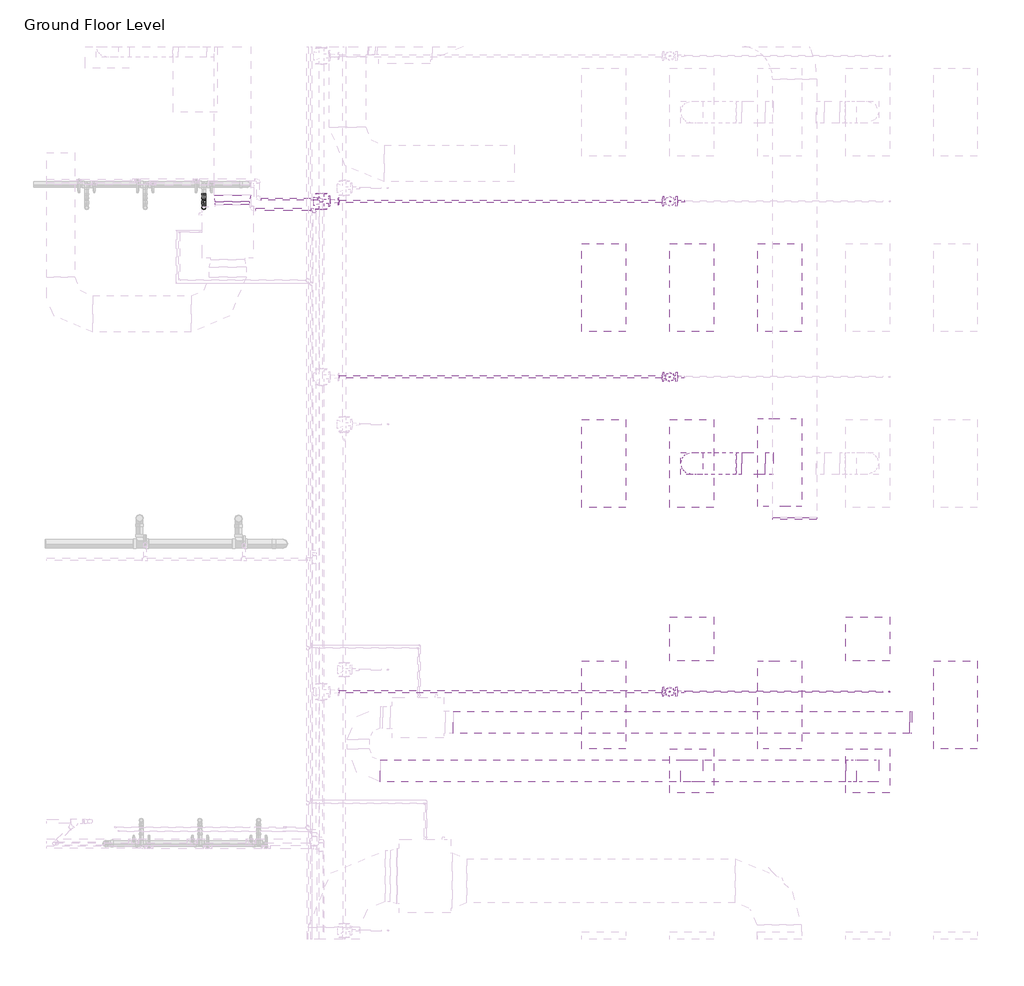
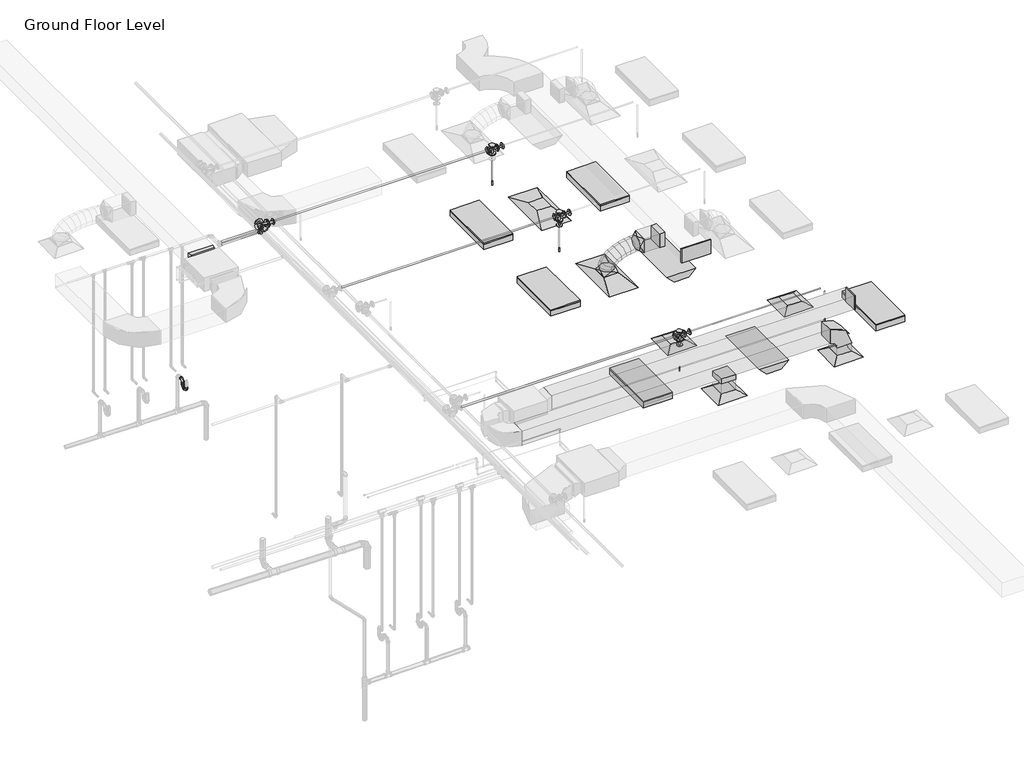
# One storey, part 22 of 74: 15 pipe fittings, 12 pipe segments, 8 duct fittings, 7 duct segments, 7 light fixtures, 6 air terminals, 4 fire suppression terminals.
"""IFC4 building model written with IfcOpenShell, lengths in millimetres."""

from ifc_helpers import new_model, si_unit, point, frame, frame_2d, origin, place, context, project, spatial, polyline, circle_curve, ellipse_curve, trimmed, segment, composite_curve, outline, extrude, transform, mapped, element, save
from ifc_brep_helpers import plane_surface, cylinder_surface, advanced_brep
from components import m_return_diffuser_1200x600_1200_x_600_face_300_x_300_d1983ef6, m_return_diffuser_600_x_600_face_300_x_300_connection_ff221211, m_rectangular_elbow_radius_1_w_618da153, m_rectangular_endcap_standard_0f0ff112, m_rectangular_endcap_standard_c319d4e7, m_rectangular_takeoff_standard_2be5eba1, m_rectangular_transition_angle_45_degree_c3bd3b2c, m_rectangular_to_round_transition_angle_45_degree_641efff0, m_sprinkler_dry_pendent_hosted_15_mm_dry_pendent_9bda8e11, m_emergency_recessed_lighting_fixture_600x1200_277_5b10b25d, m_troffer_light_parabolic_rectangular1_0600x1200mm_4_lamp_86473d4a, m_bend_pvc_sch_40_dwv_standard_1e7bdcc1, m_bend_pvc_sch_40_dwv_standard_776e50c4, m_reducer_flanged_cs_class_150_standard_ccf252ad, m_reducer_flanged_cs_class_150_standard_a7631c35, m_tee_round_base_flanged_cs_class_150_standard_dd767e04, m_tee_round_base_flanged_cs_class_150_standard_7e5987a1, standard_517a5a8d

model = new_model("IFC4")

# Units and contexts
model_context = context("Model", 3, world=origin())
ifc_project = project(units=[si_unit("LENGTHUNIT", "METRE", prefix="MILLI")], contexts=[model_context])

# Site, building, storey
site = spatial("IfcSite", under=ifc_project)
building = spatial("IfcBuilding", under=site)
storey = spatial("IfcBuildingStorey", under=building, Name="Ground Floor Level", Elevation=900.0)

# Air terminals
placement = place(None, origin())
m_return_diffuser_1200x600_1200_x_600_face_300_x_300_shape = m_return_diffuser_1200x600_1200_x_600_face_300_x_300_d1983ef6(model_context)
element("IfcAirTerminal", 1, ObjectType="M_Return Diffuser 1200x600 : 1200 x 600 Face 300 x 300 Connection", at=placement, inside=storey, context=model_context, shape_type="MappedRepresentation", body=[
    mapped(m_return_diffuser_1200x600_1200_x_600_face_300_x_300_shape, transform((10743.0482736, -25264.7846466, 3650.0), x_axis=(0.0, 1.0, 0.0), y_axis=(-1.0, 0.0, 0.0), z_axis=(0.0, 0.0, 1.0))),
])
m_return_diffuser_600_x_600_face_300_x_300_connection_shape = m_return_diffuser_600_x_600_face_300_x_300_connection_ff221211(model_context)
element("IfcAirTerminal", 2, ObjectType="M_Return Diffuser : 600 x 600 Face 300 x 300 Connection", at=placement, inside=storey, context=model_context, shape_type="MappedRepresentation", body=[
    mapped(m_return_diffuser_600_x_600_face_300_x_300_connection_shape, transform((10743.0482736, -31864.7846466, 3650.0), x_axis=(1.0, 0.0, 0.0), y_axis=(0.0, 1.0, 0.0), z_axis=(0.0, 0.0, 1.0))),
])
element("IfcAirTerminal", 3, ObjectType="M_Return Diffuser : 600 x 600 Face 300 x 300 Connection", at=placement, inside=storey, context=model_context, shape_type="MappedRepresentation", body=[
    mapped(m_return_diffuser_600_x_600_face_300_x_300_connection_shape, transform((13143.0482736, -31864.7846466, 3650.0), x_axis=(1.0, 0.0, 0.0), y_axis=(0.0, 1.0, 0.0), z_axis=(0.0, 0.0, 1.0))),
])
element("IfcAirTerminal", 4, ObjectType="M_Supply Diffuser 1200x600 : 1200 x 600 Face 300 x 300 Connection", at=placement, inside=storey, context=model_context, shape_type="MappedRepresentation", body=[
    mapped(m_return_diffuser_1200x600_1200_x_600_face_300_x_300_shape, transform((10743.0482736, -27664.7846466, 3650.0), x_axis=(0.0, 1.0, 0.0), y_axis=(-1.0, 0.0, 0.0), z_axis=(0.0, 0.0, 1.0))),
])
element("IfcAirTerminal", 5, ObjectType="M_Supply Diffuser : 600 x 600 Face 300 x 300 Connection", at=placement, inside=storey, context=model_context, shape_type="MappedRepresentation", body=[
    mapped(m_return_diffuser_600_x_600_face_300_x_300_connection_shape, transform((10743.0482736, -30064.7846466, 3650.0), x_axis=(1.0, 0.0, 0.0), y_axis=(0.0, 1.0, 0.0), z_axis=(0.0, 0.0, 1.0))),
])
element("IfcAirTerminal", 6, ObjectType="M_Supply Diffuser : 600 x 600 Face 300 x 300 Connection", at=placement, inside=storey, context=model_context, shape_type="MappedRepresentation", body=[
    mapped(m_return_diffuser_600_x_600_face_300_x_300_connection_shape, transform((13143.0482736, -30064.7846466, 3650.0), x_axis=(1.0, 0.0, 0.0), y_axis=(0.0, 1.0, 0.0), z_axis=(0.0, 0.0, 1.0))),
])

# Duct fittings
m_rectangular_elbow_radius_1_w_shape = m_rectangular_elbow_radius_1_w_618da153(model_context)
element("IfcDuctFitting", 7, ObjectType="M_Rectangular Elbow - Radius : 1 W", at=placement, inside=storey, context=model_context, shape_type="MappedRepresentation", body=[
    mapped(m_rectangular_elbow_radius_1_w_shape, transform((13143.0482736, -31864.7846466, 4221.2), x_axis=(0.0, 0.0, 1.0), y_axis=(-1.0, 0.0, 0.0), z_axis=(0.0, -1.0, 0.0))),
])
m_rectangular_endcap_standard_shape = m_rectangular_endcap_standard_0f0ff112(model_context)
element("IfcDuctFitting", 8, ObjectType="M_Rectangular Endcap : Standard", at=placement, inside=storey, context=model_context, shape_type="MappedRepresentation", body=[
    mapped(m_rectangular_endcap_standard_shape, transform((12147.7826463, -28403.2846466, 4150.0002153), x_axis=(0.0, -1.0, 0.0), y_axis=(1.0, 0.0, 0.0), z_axis=(0.0, 0.0, 1.0))),
])
m_rectangular_endcap_standard_2_shape = m_rectangular_endcap_standard_c319d4e7(model_context)
element("IfcDuctFitting", 9, ObjectType="M_Rectangular Endcap : Standard", at=placement, inside=storey, context=model_context, shape_type="MappedRepresentation", body=[
    mapped(m_rectangular_endcap_standard_2_shape, transform((13719.2644074, -31200.1877703, 4245.9), x_axis=(0.9999999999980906, 0.0, -1.954187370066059e-06), y_axis=(0.0, 1.0000000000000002, 0.0), z_axis=(1.954187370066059e-06, 0.0, 0.9999999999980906))),
])
m_rectangular_takeoff_standard_shape = m_rectangular_takeoff_standard_2be5eba1(model_context)
element("IfcDuctFitting", 10, ObjectType="M_Rectangular Takeoff : Standard", at=placement, inside=storey, context=model_context, shape_type="MappedRepresentation", body=[
    mapped(m_rectangular_takeoff_standard_shape, transform((11847.7826463, -27664.7846466, 4150.0), x_axis=(-1.0, 0.0, 0.0), y_axis=(0.0, 1.0, 0.0), z_axis=(0.0, 0.0, -1.0))),
])
element("IfcDuctFitting", 11, ObjectType="M_Rectangular Takeoff : Standard", at=placement, inside=storey, context=model_context, shape_type="MappedRepresentation", body=[
    mapped(m_rectangular_takeoff_standard_shape, transform((10743.0482736, -31864.7846466, 4071.2), x_axis=(0.0, 0.0, -1.0), y_axis=(-1.0, 0.0, 0.0), z_axis=(0.0, 1.0, 0.0))),
])
m_rectangular_transition_angle_45_degree_shape = m_rectangular_transition_angle_45_degree_c3bd3b2c(model_context)
element("IfcDuctFitting", 12, ObjectType="M_Rectangular Transition - Angle : 45 Degree", at=placement, inside=storey, context=model_context, shape_type="MappedRepresentation", body=[
    mapped(m_rectangular_transition_angle_45_degree_shape, transform((4469.1581832, -24003.4668801, 4057.1548873), x_axis=(0.0, -0.9999999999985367, 1.7107374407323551e-06), y_axis=(1.0, 0.0, 0.0), z_axis=(0.0, 1.7107374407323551e-06, 0.9999999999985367))),
])
m_rectangular_to_round_transition_angle_45_degree_shape = m_rectangular_to_round_transition_angle_45_degree_641efff0(model_context)
element("IfcDuctFitting", 13, ObjectType="M_Rectangular to Round Transition - Angle : 45 Degree", at=placement, inside=storey, context=model_context, shape_type="MappedRepresentation", body=[
    mapped(m_rectangular_to_round_transition_angle_45_degree_shape, transform((10743.0482736, -27664.7846466, 3751.6), x_axis=(0.0, 0.0, 1.0), y_axis=(-1.0, 0.0, 0.0), z_axis=(0.0, -1.0, 0.0))),
])
element("IfcDuctFitting", 14, ObjectType="M_Rectangular to Round Transition - Angle : 45 Degree", at=placement, inside=storey, context=model_context, shape_type="MappedRepresentation", body=[
    mapped(m_rectangular_to_round_transition_angle_45_degree_shape, transform((11424.4842049, -27664.7846466, 4150.0), x_axis=(-1.0, 0.0, 0.0), y_axis=(0.0, -1.0, 0.0), z_axis=(0.0, 0.0, 1.0))),
])

# Duct segments
element("IfcDuctSegment", 15, ObjectType="Flex - Round", at=placement, inside=storey, context=model_context, shape_type="AdvancedBrep", body=[
    advanced_brep(
    [(10893.0482736, -27664.7846466, 3826.6), (10743.0482736, -27814.7846466, 3826.6), (10593.0482736, -27664.7846466, 3826.6), (10743.0482736, -27514.7846466, 3826.6), (10893.0482736, -27664.7846466, 3832.4838104), (10743.0482736, -27814.7846466, 3857.3049615), (10593.0482736, -27664.7846466, 3882.1261126), (10743.0482736, -27514.7846466, 3857.3049615), (10895.1777586, -27664.7846466, 3838.7421096), (10759.7096782, -27814.7846466, 3906.2708192), (10624.2415979, -27664.7846466, 3973.7995287), (10759.7096782, -27514.7846466, 3906.2708192), (10917.1997864, -27664.7846466, 3871.1472855), (10805.5876959, -27814.7846466, 3973.7798261), (10693.9756053, -27664.7846466, 4076.4123668), (10805.5876959, -27514.7846466, 3973.7798261), (10957.142511, -27664.7846466, 3903.4915826), (10874.5230324, -27814.7846466, 4029.6013814), (10791.9035539, -27664.7846466, 4155.7111802), (10874.5230324, -27514.7846466, 4029.6013814), (11020.0646936, -27664.7846466, 3936.1928758), (10960.3563938, -27814.7846466, 4074.2098454), (10900.6480941, -27664.7846466, 4212.226815), (10960.3563938, -27514.7846466, 4074.2098454), (11098.9170855, -27664.7846466, 3963.8479616), (11056.9284859, -27814.7846466, 4108.0795788), (11014.9398863, -27664.7846466, 4252.311196), (11056.9284859, -27514.7846466, 4108.0795788), (11185.4890682, -27664.7846466, 3984.0509494), (11158.0800145, -27814.7846466, 4131.684942), (11130.6709609, -27664.7846466, 4279.3189347), (11158.0800145, -27514.7846466, 4131.684942), (11271.9732516, -27664.7846466, 3996.0504424), (11257.6516856, -27814.7846466, 4145.5002956), (11243.3301196, -27664.7846466, 4294.9501488), (11257.6516856, -27514.7846466, 4145.5002956), (11346.1345531, -27664.7846466, 4000.0), (11342.1431577, -27814.7846466, 4150.0), (11338.1517622, -27664.7846466, 4300.0), (11342.1431577, -27514.7846466, 4150.0), (11349.4842049, -27664.7846466, 4000.0), (11349.4842049, -27514.7846466, 4150.0), (11349.4842049, -27664.7846466, 4300.0), (11349.4842049, -27814.7846466, 4150.0)],
    [
        (0, 1, circle_curve(frame((10743.0482736, -27664.7846466, 3826.6), z_axis=(0.0, 0.0, -1.0), x_axis=(1.0, 0.0, 0.0)), 150.0)),
        (1, 2, circle_curve(frame((10743.0482736, -27664.7846466, 3826.6), z_axis=(0.0, 0.0, -1.0), x_axis=(1.0, 0.0, 0.0)), 150.0)),
        (2, 3, circle_curve(frame((10743.0482736, -27664.7846466, 3826.6), z_axis=(0.0, 0.0, -1.0), x_axis=(1.0, 0.0, 0.0)), 150.0)),
        (3, 0, circle_curve(frame((10743.0482736, -27664.7846466, 3826.6), z_axis=(0.0, 0.0, -1.0), x_axis=(1.0, 0.0, 0.0)), 150.0)),
        (0, 4),
        (4, 5, ellipse_curve(frame((10743.0482736, -27664.7846466, 3857.3049615), z_axis=(-0.1632543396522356, 0.0, -0.9865840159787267), x_axis=(0.9865840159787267, 0.0, -0.16325433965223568)), 152.039763, 150.0)),
        (5, 1),
        (5, 6, ellipse_curve(frame((10743.0482736, -27664.7846466, 3857.3049615), z_axis=(-0.1632543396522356, 0.0, -0.9865840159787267), x_axis=(0.9865840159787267, 0.0, -0.16325433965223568)), 152.039763, 150.0)),
        (6, 2),
        (6, 7, ellipse_curve(frame((10743.0482736, -27664.7846466, 3857.3049615), z_axis=(-0.1632543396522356, 0.0, -0.9865840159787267), x_axis=(0.9865840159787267, 0.0, -0.16325433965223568)), 152.039763, 150.0)),
        (7, 3),
        (7, 4, ellipse_curve(frame((10743.0482736, -27664.7846466, 3857.3049615), z_axis=(-0.1632543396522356, 0.0, -0.9865840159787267), x_axis=(0.9865840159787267, 0.0, -0.16325433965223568)), 152.039763, 150.0)),
        (4, 8),
        (8, 9, ellipse_curve(frame((10759.7096782, -27664.7846466, 3906.2708192), z_axis=(-0.4461280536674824, 0.0, -0.8949691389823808), x_axis=(0.8949691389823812, 0.0, -0.44612805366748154)), 151.366203, 150.0)),
        (9, 5),
        (9, 10, ellipse_curve(frame((10759.7096782, -27664.7846466, 3906.2708192), z_axis=(-0.4461280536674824, 0.0, -0.8949691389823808), x_axis=(0.8949691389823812, 0.0, -0.44612805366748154)), 151.366203, 150.0)),
        (10, 6),
        (10, 11, ellipse_curve(frame((10759.7096782, -27664.7846466, 3906.2708192), z_axis=(-0.4461280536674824, 0.0, -0.8949691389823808), x_axis=(0.8949691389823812, 0.0, -0.44612805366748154)), 151.366203, 150.0)),
        (11, 7),
        (11, 8, ellipse_curve(frame((10759.7096782, -27664.7846466, 3906.2708192), z_axis=(-0.4461280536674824, 0.0, -0.8949691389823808), x_axis=(0.8949691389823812, 0.0, -0.44612805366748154)), 151.366203, 150.0)),
        (8, 12),
        (12, 13, ellipse_curve(frame((10805.5876959, -27664.7846466, 3973.7798261), z_axis=(-0.6768758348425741, 0.0, -0.7360972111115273), x_axis=(0.7360972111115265, 0.0, -0.6768758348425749)), 151.6268352, 150.0)),
        (13, 9),
        (13, 14, ellipse_curve(frame((10805.5876959, -27664.7846466, 3973.7798261), z_axis=(-0.6768758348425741, 0.0, -0.7360972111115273), x_axis=(0.7360972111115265, 0.0, -0.6768758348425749)), 151.6268352, 150.0)),
        (14, 10),
        (14, 15, ellipse_curve(frame((10805.5876959, -27664.7846466, 3973.7798261), z_axis=(-0.6768758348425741, 0.0, -0.7360972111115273), x_axis=(0.7360972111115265, 0.0, -0.6768758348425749)), 151.6268352, 150.0)),
        (15, 11),
        (15, 12, ellipse_curve(frame((10805.5876959, -27664.7846466, 3973.7798261), z_axis=(-0.6768758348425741, 0.0, -0.7360972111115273), x_axis=(0.7360972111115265, 0.0, -0.6768758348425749)), 151.6268352, 150.0)),
        (12, 16),
        (16, 17, ellipse_curve(frame((10874.5230324, -27664.7846466, 4029.6013814), z_axis=(-0.8364738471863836, 0.0, -0.5480068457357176), x_axis=(0.5480068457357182, 0.0, -0.8364738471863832)), 150.7635884, 150.0)),
        (17, 13),
        (17, 18, ellipse_curve(frame((10874.5230324, -27664.7846466, 4029.6013814), z_axis=(-0.8364738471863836, 0.0, -0.5480068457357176), x_axis=(0.5480068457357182, 0.0, -0.8364738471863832)), 150.7635884, 150.0)),
        (18, 14),
        (18, 19, ellipse_curve(frame((10874.5230324, -27664.7846466, 4029.6013814), z_axis=(-0.8364738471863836, 0.0, -0.5480068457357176), x_axis=(0.5480068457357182, 0.0, -0.8364738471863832)), 150.7635884, 150.0)),
        (19, 15),
        (19, 16, ellipse_curve(frame((10874.5230324, -27664.7846466, 4029.6013814), z_axis=(-0.8364738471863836, 0.0, -0.5480068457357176), x_axis=(0.5480068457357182, 0.0, -0.8364738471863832)), 150.7635884, 150.0)),
        (16, 20),
        (20, 21, ellipse_curve(frame((10960.3563938, -27664.7846466, 4074.2098454), z_axis=(-0.9177957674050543, 0.0, -0.3970528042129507), x_axis=(0.3970528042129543, 0.0, -0.9177957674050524)), 150.3787384, 150.0)),
        (21, 17),
        (21, 22, ellipse_curve(frame((10960.3563938, -27664.7846466, 4074.2098454), z_axis=(-0.9177957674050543, 0.0, -0.3970528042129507), x_axis=(0.3970528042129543, 0.0, -0.9177957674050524)), 150.3787384, 150.0)),
        (22, 18),
        (22, 23, ellipse_curve(frame((10960.3563938, -27664.7846466, 4074.2098454), z_axis=(-0.9177957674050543, 0.0, -0.3970528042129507), x_axis=(0.3970528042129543, 0.0, -0.9177957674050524)), 150.3787384, 150.0)),
        (23, 19),
        (23, 20, ellipse_curve(frame((10960.3563938, -27664.7846466, 4074.2098454), z_axis=(-0.9177957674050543, 0.0, -0.3970528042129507), x_axis=(0.3970528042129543, 0.0, -0.9177957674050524)), 150.3787384, 150.0)),
        (20, 24),
        (24, 25, ellipse_curve(frame((11056.9284859, -27664.7846466, 4108.0795788), z_axis=(-0.9601411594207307, 0.0, -0.27951557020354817), x_axis=(0.2795155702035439, 0.0, -0.9601411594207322)), 150.2191795, 150.0)),
        (25, 21),
        (25, 26, ellipse_curve(frame((11056.9284859, -27664.7846466, 4108.0795788), z_axis=(-0.9601411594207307, 0.0, -0.27951557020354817), x_axis=(0.2795155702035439, 0.0, -0.9601411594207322)), 150.2191795, 150.0)),
        (26, 22),
        (26, 27, ellipse_curve(frame((11056.9284859, -27664.7846466, 4108.0795788), z_axis=(-0.9601411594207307, 0.0, -0.27951557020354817), x_axis=(0.2795155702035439, 0.0, -0.9601411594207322)), 150.2191795, 150.0)),
        (27, 23),
        (27, 24, ellipse_curve(frame((11056.9284859, -27664.7846466, 4108.0795788), z_axis=(-0.9601411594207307, 0.0, -0.27951557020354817), x_axis=(0.2795155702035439, 0.0, -0.9601411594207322)), 150.2191795, 150.0)),
        (24, 28),
        (28, 29, ellipse_curve(frame((11158.0800145, -27664.7846466, 4131.684942), z_axis=(-0.9831991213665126, 0.0, -0.1825362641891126), x_axis=(0.18253626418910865, 0.0, -0.9831991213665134)), 150.1567581, 150.0)),
        (29, 25),
        (29, 30, ellipse_curve(frame((11158.0800145, -27664.7846466, 4131.684942), z_axis=(-0.9831991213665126, 0.0, -0.1825362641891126), x_axis=(0.18253626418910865, 0.0, -0.9831991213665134)), 150.1567581, 150.0)),
        (30, 26),
        (30, 31, ellipse_curve(frame((11158.0800145, -27664.7846466, 4131.684942), z_axis=(-0.9831991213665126, 0.0, -0.1825362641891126), x_axis=(0.18253626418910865, 0.0, -0.9831991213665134)), 150.1567581, 150.0)),
        (31, 27),
        (31, 28, ellipse_curve(frame((11158.0800145, -27664.7846466, 4131.684942), z_axis=(-0.9831991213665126, 0.0, -0.1825362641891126), x_axis=(0.18253626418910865, 0.0, -0.9831991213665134)), 150.1567581, 150.0)),
        (28, 32),
        (32, 33, ellipse_curve(frame((11257.6516856, -27664.7846466, 4145.5002956), z_axis=(-0.9954398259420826, 0.0, -0.09539157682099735), x_axis=(0.09539157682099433, 0.0, -0.9954398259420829)), 150.1344926, 150.0)),
        (33, 29),
        (33, 34, ellipse_curve(frame((11257.6516856, -27664.7846466, 4145.5002956), z_axis=(-0.9954398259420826, 0.0, -0.09539157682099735), x_axis=(0.09539157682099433, 0.0, -0.9954398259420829)), 150.1344926, 150.0)),
        (34, 30),
        (34, 35, ellipse_curve(frame((11257.6516856, -27664.7846466, 4145.5002956), z_axis=(-0.9954398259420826, 0.0, -0.09539157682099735), x_axis=(0.09539157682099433, 0.0, -0.9954398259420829)), 150.1344926, 150.0)),
        (35, 31),
        (35, 32, ellipse_curve(frame((11257.6516856, -27664.7846466, 4145.5002956), z_axis=(-0.9954398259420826, 0.0, -0.09539157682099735), x_axis=(0.09539157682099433, 0.0, -0.9954398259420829)), 150.1344926, 150.0)),
        (32, 36),
        (36, 37, ellipse_curve(frame((11342.1431577, -27664.7846466, 4150.0), z_axis=(-0.9996461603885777, 0.0, -0.02659988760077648), x_axis=(0.026599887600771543, 0.0, -0.9996461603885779)), 150.0530947, 150.0)),
        (37, 33),
        (37, 38, ellipse_curve(frame((11342.1431577, -27664.7846466, 4150.0), z_axis=(-0.9996461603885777, 0.0, -0.02659988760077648), x_axis=(0.026599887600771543, 0.0, -0.9996461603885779)), 150.0530947, 150.0)),
        (38, 34),
        (38, 39, ellipse_curve(frame((11342.1431577, -27664.7846466, 4150.0), z_axis=(-0.9996461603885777, 0.0, -0.02659988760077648), x_axis=(0.026599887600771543, 0.0, -0.9996461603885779)), 150.0530947, 150.0)),
        (39, 35),
        (39, 36, ellipse_curve(frame((11342.1431577, -27664.7846466, 4150.0), z_axis=(-0.9996461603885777, 0.0, -0.02659988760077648), x_axis=(0.026599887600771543, 0.0, -0.9996461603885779)), 150.0530947, 150.0)),
        (40, 41, circle_curve(frame((11349.4842049, -27664.7846466, 4150.0), z_axis=(1.0, 0.0, 0.0), x_axis=(0.0, 0.0, -1.0)), 150.0)),
        (41, 42, circle_curve(frame((11349.4842049, -27664.7846466, 4150.0), z_axis=(1.0, 0.0, 0.0), x_axis=(0.0, 0.0, -1.0)), 150.0)),
        (42, 43, circle_curve(frame((11349.4842049, -27664.7846466, 4150.0), z_axis=(1.0, 0.0, 0.0), x_axis=(0.0, 0.0, -1.0)), 150.0)),
        (43, 40, circle_curve(frame((11349.4842049, -27664.7846466, 4150.0), z_axis=(1.0, 0.0, 0.0), x_axis=(0.0, 0.0, -1.0)), 150.0)),
        (36, 40),
        (43, 37),
        (42, 38),
        (41, 39),
    ],
    [
        plane_surface(frame((10743.0482736, -27814.7846466, 3826.6), z_axis=(0.0, 0.0, -1.0), x_axis=(1.0, 0.0, 0.0))),
        cylinder_surface(frame((10743.0482736, -27664.7846466, 3826.6), z_axis=(0.0, 0.0, -1.0), x_axis=(1.0, 0.0, 0.0)), 150.0),
        cylinder_surface(frame((10743.0482736, -27664.7846466, 3857.3049615), z_axis=(-0.32212824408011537, 0.0, -0.946696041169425), x_axis=(0.946696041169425, 0.0, -0.32212824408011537)), 150.0),
        cylinder_surface(frame((10759.7096782, -27664.7846466, 3906.2708192), z_axis=(-0.5620745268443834, 0.0, -0.827086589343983), x_axis=(0.827086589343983, 0.0, -0.5620745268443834)), 150.0),
        cylinder_surface(frame((10805.5876959, -27664.7846466, 3973.7798261), z_axis=(-0.7771524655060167, 0.0, -0.6293123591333), x_axis=(0.6293123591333, 0.0, -0.7771524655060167)), 150.0),
        cylinder_surface(frame((10874.5230324, -27664.7846466, 4029.6013814), z_axis=(-0.8873220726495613, 0.0, -0.4611502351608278), x_axis=(0.4611502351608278, 0.0, -0.8873220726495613)), 150.0),
        cylinder_surface(frame((10960.3563938, -27664.7846466, 4074.2098454), z_axis=(-0.9436464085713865, 0.0, -0.33095536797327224), x_axis=(0.33095536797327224, 0.0, -0.9436464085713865)), 150.0),
        cylinder_surface(frame((11056.9284859, -27664.7846466, 4108.0795788), z_axis=(-0.9738340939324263, 0.0, -0.22726010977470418), x_axis=(0.22726010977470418, 0.0, -0.9738340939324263)), 150.0),
        cylinder_surface(frame((11158.0800145, -27664.7846466, 4131.684942), z_axis=(-0.9905113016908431, 0.0, -0.13743129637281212), x_axis=(0.13743129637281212, 0.0, -0.9905113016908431)), 150.0),
        cylinder_surface(frame((11257.6516856, -27664.7846466, 4145.5002956), z_axis=(-0.9985848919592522, 0.0, -0.05318095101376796), x_axis=(0.05318095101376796, 0.0, -0.9985848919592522)), 150.0),
        plane_surface(frame((11349.4842049, -27664.7846466, 4000.0), z_axis=(1.0, 0.0, 0.0), x_axis=(0.0, 1.0, 0.0))),
        cylinder_surface(frame((11342.1431577, -27664.7846466, 4150.0), z_axis=(-1.0, 0.0, 0.0), x_axis=(0.0, 0.0, -1.0)), 150.0),
    ],
    [
        (0, [[1, 2, 3, 4]]),
        (1, [[-1, 5, 6, 7]]),
        (1, [[-2, -7, 8, 9]]),
        (1, [[-3, -9, 10, 11]]),
        (1, [[-4, -11, 12, -5]]),
        (2, [[-6, 13, 14, 15]]),
        (2, [[-8, -15, 16, 17]]),
        (2, [[-10, -17, 18, 19]]),
        (2, [[-12, -19, 20, -13]]),
        (3, [[-14, 21, 22, 23]]),
        (3, [[-16, -23, 24, 25]]),
        (3, [[-18, -25, 26, 27]]),
        (3, [[-20, -27, 28, -21]]),
        (4, [[-22, 29, 30, 31]]),
        (4, [[-24, -31, 32, 33]]),
        (4, [[-26, -33, 34, 35]]),
        (4, [[-28, -35, 36, -29]]),
        (5, [[-30, 37, 38, 39]]),
        (5, [[-32, -39, 40, 41]]),
        (5, [[-34, -41, 42, 43]]),
        (5, [[-36, -43, 44, -37]]),
        (6, [[-38, 45, 46, 47]]),
        (6, [[-40, -47, 48, 49]]),
        (6, [[-42, -49, 50, 51]]),
        (6, [[-44, -51, 52, -45]]),
        (7, [[-46, 53, 54, 55]]),
        (7, [[-48, -55, 56, 57]]),
        (7, [[-50, -57, 58, 59]]),
        (7, [[-52, -59, 60, -53]]),
        (8, [[-54, 61, 62, 63]]),
        (8, [[-56, -63, 64, 65]]),
        (8, [[-58, -65, 66, 67]]),
        (8, [[-60, -67, 68, -61]]),
        (9, [[-62, 69, 70, 71]]),
        (9, [[-64, -71, 72, 73]]),
        (9, [[-66, -73, 74, 75]]),
        (9, [[-68, -75, 76, -69]]),
        (10, [[77, 78, 79, 80]]),
        (11, [[-70, 81, -80, 82]]),
        (11, [[-72, -82, -79, 83]]),
        (11, [[-74, -83, -78, 84]]),
        (11, [[-76, -84, -77, -81]]),
    ],
),
])
element("IfcDuctSegment", 16, ObjectType="Radius Elbows / Taps", at=placement, inside=storey, context=model_context, shape_type="SweptSolid", body=[
    extrude(outline(polyline([(11746.1826463, -27514.7846466), (11746.1826463, -27814.7846466), (11424.4842049, -27814.7846466), (11424.4842049, -27514.7846466), (11746.1826463, -27514.7846466)])), frame((0.0, 0.0, 4000.0), z_axis=(0.0, 0.0, 1.0), x_axis=(1.0, 0.0, 0.0)), (0.0, 0.0, 1.0), 300.0),
])
element("IfcDuctSegment", 17, ObjectType="Radius Elbows / Taps", at=placement, inside=storey, context=model_context, shape_type="SweptSolid", body=[
    extrude(outline(polyline([(0.0, -300.0), (0.0, 0.0), (6236.5207712, 0.0), (6236.5207712, -300.0), (0.0, -300.0)])), frame((7482.7433356, -31050.1877703, 4095.9125), z_axis=(2.004322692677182e-06, 0.0, 0.9999999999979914), x_axis=(0.9999999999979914, 0.0, -2.004322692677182e-06)), (0.0, 0.0, 1.0), 300.0),
])
element("IfcDuctSegment", 18, ObjectType="Radius Elbows / Taps", at=placement, inside=storey, context=model_context, shape_type="SweptSolid", body=[
    extrude(outline(polyline([(6488.4644074, -32014.7846466), (6488.4644074, -31714.7846466), (12843.0482736, -31714.7846466), (12843.0482736, -32014.7846466), (6488.4644074, -32014.7846466)])), frame((0.0, 0.0, 4071.2), z_axis=(0.0, 0.0, 1.0), x_axis=(1.0, 0.0, 0.0)), (0.0, 0.0, 1.0), 300.0),
])
element("IfcDuctSegment", 19, ObjectType="Radius Elbows / Taps", at=placement, inside=storey, context=model_context, shape_type="SweptSolid", body=[
    extrude(outline(polyline([(12993.0482736, -32014.7846466), (12993.0482736, -31714.7846466), (13293.0482736, -31714.7846466), (13293.0482736, -32014.7846466), (12993.0482736, -32014.7846466)])), frame((0.0, 0.0, 3751.6), z_axis=(0.0, 0.0, 1.0), x_axis=(1.0, 0.0, 0.0)), (0.0, 0.0, 1.0), 169.6),
])
element("IfcDuctSegment", 20, ObjectType="Radius Elbows / Taps", at=placement, inside=storey, context=model_context, shape_type="SweptSolid", body=[
    extrude(outline(polyline([(10893.0482736, -32014.7846466), (10593.0482736, -32014.7846466), (10593.0482736, -31714.7846466), (10893.0482736, -31714.7846466), (10893.0482736, -32014.7846466)])), frame((0.0, 0.0, 3751.6), z_axis=(0.0, 0.0, 1.0), x_axis=(1.0, 0.0, 0.0)), (0.0, 0.0, 1.0), 218.0),
])
element("IfcDuctSegment", 21, ObjectType="Radius Elbows / Taps", at=placement, inside=storey, context=model_context, shape_type="SweptSolid", body=[
    extrude(outline(polyline([(4700.0956832, -24131.8627051), (4238.2206832, -24131.8627051), (4238.2206832, -24089.1912487), (4700.0956832, -24089.1912487), (4700.0956832, -24131.8627051)])), frame((0.0, 0.0, 3992.8804453), z_axis=(0.0, 0.0, 1.0), x_axis=(1.0, 0.0, 0.0)), (0.0, 0.0, 1.0), 214.275),
])

# Fire suppression terminals
m_sprinkler_dry_pendent_hosted_15_mm_dry_pendent_shape = m_sprinkler_dry_pendent_hosted_15_mm_dry_pendent_9bda8e11(model_context)
element("IfcFireSuppressionTerminal", 22, ObjectType="M_Sprinkler - Dry - Pendent - Hosted : 15 mm Dry Pendent", at=placement, inside=storey, context=model_context, shape_type="MappedRepresentation", body=[
    mapped(m_sprinkler_dry_pendent_hosted_15_mm_dry_pendent_shape, transform((10443.0482736, -24083.6779349, 3650.0), x_axis=(1.0, 0.0, 0.0), y_axis=(0.0, -1.0, 0.0), z_axis=(0.0, 0.0, -1.0))),
])
element("IfcFireSuppressionTerminal", 23, ObjectType="M_Sprinkler - Dry - Pendent - Hosted : 15 mm Dry Pendent", at=placement, inside=storey, context=model_context, shape_type="MappedRepresentation", body=[
    mapped(m_sprinkler_dry_pendent_hosted_15_mm_dry_pendent_shape, transform((10443.0482736, -26484.6295433, 3650.0), x_axis=(1.0, 0.0, 0.0), y_axis=(0.0, -1.0, 0.0), z_axis=(0.0, 0.0, -1.0))),
])
element("IfcFireSuppressionTerminal", 24, ObjectType="M_Sprinkler - Dry - Pendent - Hosted : 15 mm Dry Pendent", at=placement, inside=storey, context=model_context, shape_type="MappedRepresentation", body=[
    mapped(m_sprinkler_dry_pendent_hosted_15_mm_dry_pendent_shape, transform((10443.0482736, -30785.1783804, 3650.0), x_axis=(1.0, 0.0, 0.0), y_axis=(0.0, -1.0, 0.0), z_axis=(0.0, 0.0, -1.0))),
])
element("IfcFireSuppressionTerminal", 25, ObjectType="M_Sprinkler - Dry - Pendent - Hosted : 15 mm Dry Pendent", at=placement, inside=storey, context=model_context, shape_type="MappedRepresentation", body=[
    mapped(m_sprinkler_dry_pendent_hosted_15_mm_dry_pendent_shape, transform((13443.0482736, -30785.1783804, 3650.0), x_axis=(1.0, 0.0, 0.0), y_axis=(0.0, -1.0, 0.0), z_axis=(0.0, 0.0, -1.0))),
])

# Light fixtures
m_emergency_recessed_lighting_fixture_600x1200_277_shape = m_emergency_recessed_lighting_fixture_600x1200_277_5b10b25d(model_context)
element("IfcLightFixture", 26, ObjectType="M_Emergency Recessed Lighting Fixture : 600x1200 - 277", at=placement, inside=storey, context=model_context, shape_type="MappedRepresentation", body=[
    mapped(m_emergency_recessed_lighting_fixture_600x1200_277_shape, transform((11643.0482736, -28254.7846466, 3650.0), x_axis=(0.0, 1.0, 0.0), y_axis=(-1.0, 0.0, 0.0), z_axis=(0.0, 0.0, 1.0))),
])
element("IfcLightFixture", 27, ObjectType="M_Emergency Recessed Lighting Fixture : 600x1200 - 277", at=placement, inside=storey, context=model_context, shape_type="MappedRepresentation", body=[
    mapped(m_emergency_recessed_lighting_fixture_600x1200_277_shape, transform((11643.0482736, -31564.7846466, 3650.0), x_axis=(0.0, 1.0, 0.0), y_axis=(-1.0, 0.0, 0.0), z_axis=(0.0, 0.0, 1.0))),
])
m_troffer_light_parabolic_rectangular1_0600x1200mm_4_lamp_shape = m_troffer_light_parabolic_rectangular1_0600x1200mm_4_lamp_86473d4a(model_context)
element("IfcLightFixture", 28, ObjectType="M_Troffer Light - Parabolic Rectangular1 : 0600x1200mm(4 Lamp) - 277V 2", at=placement, inside=storey, context=model_context, shape_type="MappedRepresentation", body=[
    mapped(m_troffer_light_parabolic_rectangular1_0600x1200mm_4_lamp_shape, transform((9483.5823415, -25246.081145, 3650.0), x_axis=(0.0, 1.0, 0.0), y_axis=(-1.0, 0.0, 0.0), z_axis=(0.0, 0.0, 1.0))),
])
element("IfcLightFixture", 29, ObjectType="M_Troffer Light - Parabolic Rectangular1 : 0600x1200mm(4 Lamp) - 277V 2", at=placement, inside=storey, context=model_context, shape_type="MappedRepresentation", body=[
    mapped(m_troffer_light_parabolic_rectangular1_0600x1200mm_4_lamp_shape, transform((11883.5823415, -25246.081145, 3650.0), x_axis=(0.0, 1.0, 0.0), y_axis=(-1.0, 0.0, 0.0), z_axis=(0.0, 0.0, 1.0))),
])
element("IfcLightFixture", 30, ObjectType="M_Troffer Light - Parabolic Rectangular1 : 0600x1200mm(4 Lamp) - 277V 2", at=placement, inside=storey, context=model_context, shape_type="MappedRepresentation", body=[
    mapped(m_troffer_light_parabolic_rectangular1_0600x1200mm_4_lamp_shape, transform((9483.5823415, -27646.081145, 3650.0), x_axis=(0.0, 1.0, 0.0), y_axis=(-1.0, 0.0, 0.0), z_axis=(0.0, 0.0, 1.0))),
])
element("IfcLightFixture", 31, ObjectType="M_Troffer Light - Parabolic Rectangular1 : 0600x1200mm(4 Lamp) - 277V 2", at=placement, inside=storey, context=model_context, shape_type="MappedRepresentation", body=[
    mapped(m_troffer_light_parabolic_rectangular1_0600x1200mm_4_lamp_shape, transform((9483.5823415, -30946.081145, 3650.0), x_axis=(0.0, 1.0, 0.0), y_axis=(-1.0, 0.0, 0.0), z_axis=(0.0, 0.0, 1.0))),
])
element("IfcLightFixture", 32, ObjectType="M_Troffer Light - Parabolic Rectangular1 : 0600x1200mm(4 Lamp) - 277V 2", at=placement, inside=storey, context=model_context, shape_type="MappedRepresentation", body=[
    mapped(m_troffer_light_parabolic_rectangular1_0600x1200mm_4_lamp_shape, transform((14283.5823415, -30946.081145, 3650.0), x_axis=(0.0, 1.0, 0.0), y_axis=(-1.0, 0.0, 0.0), z_axis=(0.0, 0.0, 1.0))),
])

# Pipe fittings
m_bend_pvc_sch_40_dwv_standard_shape = m_bend_pvc_sch_40_dwv_standard_1e7bdcc1(model_context)
element("IfcPipeFitting", 33, ObjectType="M_Bend - PVC - Sch 40 - DWV : Standard", at=placement, inside=storey, context=model_context, shape_type="MappedRepresentation", body=[
    mapped(m_bend_pvc_sch_40_dwv_standard_shape, transform((4078.7498, -24168.3528578, 1360.00001), x_axis=(0.0, -0.9999500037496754, 0.009999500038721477), y_axis=(0.0, 0.009999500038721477, 0.9999500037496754), z_axis=(-1.0, 0.0, 0.0))),
])
m_bend_pvc_sch_40_dwv_standard_2_shape = m_bend_pvc_sch_40_dwv_standard_776e50c4(model_context)
element("IfcPipeFitting", 34, ObjectType="M_Bend - PVC - Sch 40 - DWV : Standard", at=placement, inside=storey, context=model_context, shape_type="MappedRepresentation", body=[
    mapped(m_bend_pvc_sch_40_dwv_standard_2_shape, transform((4078.7498, -24038.3518579, 1358.7), x_axis=(0.0, 0.9999500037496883, -0.009999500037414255), y_axis=(0.0, 0.009999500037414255, 0.9999500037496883), z_axis=(1.0, 0.0, 0.0))),
])
element("IfcPipeFitting", 35, ObjectType="M_Bend - PVC - Sch 40 - DWV : Standard", at=placement, inside=storey, context=model_context, shape_type="MappedRepresentation", body=[
    mapped(m_bend_pvc_sch_40_dwv_standard_2_shape, transform((4078.7498, -24038.3518579, 1510.09999), x_axis=(0.0, 0.0, 1.0), y_axis=(0.0, 1.0, 0.0), z_axis=(-1.0, 0.0, 0.0))),
])
m_reducer_flanged_cs_class_150_standard_shape = m_reducer_flanged_cs_class_150_standard_ccf252ad(model_context)
element("IfcPipeFitting", 36, ObjectType="M_Reducer - Flanged - CS - Class 150 : Standard", at=placement, inside=storey, context=model_context, shape_type="MappedRepresentation", body=[
    mapped(m_reducer_flanged_cs_class_150_standard_shape, transform((10543.7568674, -30785.1783804, 4347.5), x_axis=(1.0, 0.0, 0.0), y_axis=(0.0, 0.0, 1.0), z_axis=(0.0, -1.0, 0.0))),
])
element("IfcPipeFitting", 37, ObjectType="M_Reducer - Flanged - CS - Class 150 : Standard", at=placement, inside=storey, context=model_context, shape_type="MappedRepresentation", body=[
    mapped(m_reducer_flanged_cs_class_150_standard_shape, transform((10443.0482736, -30785.1783804, 4246.7914063), x_axis=(0.0, 0.0, -1.0), y_axis=(-1.0, 0.0, 0.0), z_axis=(0.0, 1.0, 0.0))),
])
element("IfcPipeFitting", 38, ObjectType="M_Reducer - Flanged - CS - Class 150 : Standard", at=placement, inside=storey, context=model_context, shape_type="MappedRepresentation", body=[
    mapped(m_reducer_flanged_cs_class_150_standard_shape, transform((10543.7568674, -26484.6295433, 4347.5), x_axis=(1.0, 0.0, 0.0), y_axis=(0.0, 0.0, 1.0), z_axis=(0.0, -1.0, 0.0))),
])
element("IfcPipeFitting", 39, ObjectType="M_Reducer - Flanged - CS - Class 150 : Standard", at=placement, inside=storey, context=model_context, shape_type="MappedRepresentation", body=[
    mapped(m_reducer_flanged_cs_class_150_standard_shape, transform((10443.0482736, -26484.6295433, 4246.7914063), x_axis=(0.0, 0.0, -1.0), y_axis=(-1.0, 0.0, 0.0), z_axis=(0.0, 1.0, 0.0))),
])
element("IfcPipeFitting", 40, ObjectType="M_Reducer - Flanged - CS - Class 150 : Standard", at=placement, inside=storey, context=model_context, shape_type="MappedRepresentation", body=[
    mapped(m_reducer_flanged_cs_class_150_standard_shape, transform((10543.7568674, -24083.6779349, 4347.5), x_axis=(1.0, 0.0, 0.0), y_axis=(0.0, 0.0, 1.0), z_axis=(0.0, -1.0, 0.0))),
])
m_reducer_flanged_cs_class_150_standard_2_shape = m_reducer_flanged_cs_class_150_standard_a7631c35(model_context)
element("IfcPipeFitting", 41, ObjectType="M_Reducer - Flanged - CS - Class 150 : Standard", at=placement, inside=storey, context=model_context, shape_type="MappedRepresentation", body=[
    mapped(m_reducer_flanged_cs_class_150_standard_2_shape, transform((5798.6174894, -24083.6779349, 4347.5), x_axis=(1.0, 0.0, 0.0), y_axis=(0.0, 0.0, 1.0), z_axis=(0.0, -1.0, 0.0))),
])
m_tee_round_base_flanged_cs_class_150_standard_shape = m_tee_round_base_flanged_cs_class_150_standard_dd767e04(model_context)
element("IfcPipeFitting", 42, ObjectType="M_Tee Round Base - Flanged - CS - Class 150 : Standard", at=placement, inside=storey, context=model_context, shape_type="MappedRepresentation", body=[
    mapped(m_tee_round_base_flanged_cs_class_150_standard_shape, transform((5684.6174894, -24083.6779349, 4347.5), x_axis=(0.0, -1.0, 0.0), y_axis=(-1.0, 0.0, 0.0), z_axis=(0.0, 0.0, -1.0))),
])
m_tee_round_base_flanged_cs_class_150_standard_2_shape = m_tee_round_base_flanged_cs_class_150_standard_7e5987a1(model_context)
element("IfcPipeFitting", 43, ObjectType="M_Tee Round Base - Flanged - CS - Class 150 : Standard", at=placement, inside=storey, context=model_context, shape_type="MappedRepresentation", body=[
    mapped(m_tee_round_base_flanged_cs_class_150_standard_2_shape, transform((10443.0482736, -30785.1783804, 4347.5), x_axis=(1.0, 0.0, 0.0), y_axis=(0.0, 0.0, 1.0), z_axis=(0.0, -1.0, 0.0))),
])
element("IfcPipeFitting", 44, ObjectType="M_Tee Round Base - Flanged - CS - Class 150 : Standard", at=placement, inside=storey, context=model_context, shape_type="MappedRepresentation", body=[
    mapped(m_tee_round_base_flanged_cs_class_150_standard_2_shape, transform((10443.0482736, -26484.6295433, 4347.5), x_axis=(1.0, 0.0, 0.0), y_axis=(0.0, 0.0, 1.0), z_axis=(0.0, -1.0, 0.0))),
])
element("IfcPipeFitting", 45, ObjectType="M_Tee Round Base - Flanged - CS - Class 150 : Standard", at=placement, inside=storey, context=model_context, shape_type="MappedRepresentation", body=[
    mapped(m_tee_round_base_flanged_cs_class_150_standard_2_shape, transform((10443.0482736, -24083.6779349, 4347.5), x_axis=(1.0, 0.0, 0.0), y_axis=(0.0, 0.0, 1.0), z_axis=(0.0, -1.0, 0.0))),
])
standard_shape = standard_517a5a8d(model_context)
element("IfcPipeFitting", 46, ObjectType="M_Elbow - CPVC - Sch 40 : Standard", at=placement, inside=storey, context=model_context, shape_type="MappedRepresentation", body=[
    mapped(standard_shape, transform((5589.646628, -24195.7825432, 4300.0), x_axis=(0.0, 1.0, 0.0), y_axis=(-1.0, 0.0, 0.0), z_axis=(0.0, 0.0, 1.0))),
])
element("IfcPipeFitting", 47, ObjectType="M_Elbow - CPVC - Sch 40 : Standard", at=placement, inside=storey, context=model_context, shape_type="MappedRepresentation", body=[
    mapped(standard_shape, transform((5680.5575802, -24054.921633, 4250.0), x_axis=(0.0, 1.0, 0.0), y_axis=(-1.0, 0.0, 0.0), z_axis=(0.0, 0.0, 1.0))),
])

# Pipe segments
element("IfcPipeSegment", 48, ObjectType="CPVC", at=placement, inside=storey, context=model_context, shape_type="SweptSolid", body=[
    extrude(outline(composite_curve([segment(trimmed(circle_curve(frame_2d((-24195.7825432, 4300.0)), 16.7005), [point((-24212.4830432, 4300.0))], [point((-24195.7825432, 4316.7005))], False, "CARTESIAN"), True, "CONTINUOUS"), segment(trimmed(circle_curve(frame_2d((-24195.7825432, 4300.0)), 16.7005), [point((-24195.7825432, 4316.7005))], [point((-24179.0820432, 4300.0))], False, "CARTESIAN"), True, "CONTINUOUS"), segment(trimmed(circle_curve(frame_2d((-24195.7825432, 4300.0)), 16.7005), [point((-24179.0820432, 4300.0))], [point((-24195.7825432, 4283.2995))], False, "CARTESIAN"), True, "CONTINUOUS"), segment(trimmed(circle_curve(frame_2d((-24195.7825432, 4300.0)), 16.7005), [point((-24195.7825432, 4283.2995))], [point((-24212.4830432, 4300.0))], False, "CARTESIAN"), True, "CONTINUOUS")], self_intersect=False)), frame((4786.3272706, 0.0, 0.0), z_axis=(1.0, 0.0, 0.0), x_axis=(0.0, 1.0, 0.0)), (0.0, 0.0, 1.0), 760.0568074),
])
element("IfcPipeSegment", 49, ObjectType="CPVC", at=placement, inside=storey, context=model_context, shape_type="SweptSolid", body=[
    extrude(outline(composite_curve([segment(trimmed(circle_curve(frame_2d((-24054.921633, 4250.0)), 16.7005), [point((-24038.221133, 4250.0))], [point((-24054.921633, 4233.2995))], False, "CARTESIAN"), True, "CONTINUOUS"), segment(trimmed(circle_curve(frame_2d((-24054.921633, 4250.0)), 16.7005), [point((-24054.921633, 4233.2995))], [point((-24071.622133, 4250.0))], False, "CARTESIAN"), True, "CONTINUOUS"), segment(trimmed(circle_curve(frame_2d((-24054.921633, 4250.0)), 16.7005), [point((-24071.622133, 4250.0))], [point((-24054.921633, 4266.7005))], False, "CARTESIAN"), True, "CONTINUOUS"), segment(trimmed(circle_curve(frame_2d((-24054.921633, 4250.0)), 16.7005), [point((-24054.921633, 4266.7005))], [point((-24038.221133, 4250.0))], False, "CARTESIAN"), True, "CONTINUOUS")], self_intersect=False)), frame((4863.8201302, 0.0, 0.0), z_axis=(1.0, 0.0, 0.0), x_axis=(0.0, 1.0, 0.0)), (0.0, 0.0, 1.0), 773.4749),
])
element("IfcPipeSegment", 50, ObjectType="PVC - DWV", at=placement, inside=storey, context=model_context, shape_type="SweptSolid", body=[
    extrude(outline(composite_curve([segment(trimmed(circle_curve(frame_2d((0.0, -24.1299999)), 24.13), [point((24.13, -24.1299999))], [point((0.0, -48.2599999))], False, "CARTESIAN"), True, "CONTINUOUS"), segment(trimmed(circle_curve(frame_2d((0.0, -24.1299999)), 24.13), [point((0.0, -48.2599999))], [point((-24.13, -24.1299999))], False, "CARTESIAN"), True, "CONTINUOUS"), segment(trimmed(circle_curve(frame_2d((0.0, -24.1299999)), 24.13), [point((-24.13, -24.1299999))], [point((0.0, 0.0))], False, "CARTESIAN"), True, "CONTINUOUS"), segment(trimmed(circle_curve(frame_2d((0.0, -24.1299999)), 24.13), [point((0.0, 0.0))], [point((24.13, -24.1299999))], False, "CARTESIAN"), True, "CONTINUOUS")], self_intersect=False)), frame((4078.7498, -24100.0072752, 1383.4477606), z_axis=(0.0, -0.9999500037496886, 0.009999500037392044), x_axis=(1.0, 0.0, 0.0)), (0.0, 0.0, 1.0), 6.2078998),
])
element("IfcPipeSegment", 51, ObjectType="PVC - DWV", at=placement, inside=storey, context=model_context, shape_type="SweptSolid", body=[
    extrude(outline(composite_curve([segment(trimmed(circle_curve(frame_2d((4078.7498, -24038.3518579)), 24.13), [point((4054.6198, -24038.3518579))], [point((4078.7498, -24014.2218579))], False, "CARTESIAN"), True, "CONTINUOUS"), segment(trimmed(circle_curve(frame_2d((4078.7498, -24038.3518579)), 24.13), [point((4078.7498, -24014.2218579))], [point((4102.8798, -24038.3518579))], False, "CARTESIAN"), True, "CONTINUOUS"), segment(trimmed(circle_curve(frame_2d((4078.7498, -24038.3518579)), 24.13), [point((4102.8798, -24038.3518579))], [point((4078.7498, -24062.4818579))], False, "CARTESIAN"), True, "CONTINUOUS"), segment(trimmed(circle_curve(frame_2d((4078.7498, -24038.3518579)), 24.13), [point((4078.7498, -24062.4818579))], [point((4054.6198, -24038.3518579))], False, "CARTESIAN"), True, "CONTINUOUS")], self_intersect=False)), frame((0.0, 0.0, 1420.5998), z_axis=(0.0, 0.0, 1.0), x_axis=(1.0, 0.0, 0.0)), (0.0, 0.0, 1.0), 27.60039),
])
element("IfcPipeSegment", 52, ObjectType="Steel flanged", at=placement, inside=storey, context=model_context, shape_type="SweptSolid", body=[
    extrude(outline(composite_curve([segment(trimmed(circle_curve(frame_2d((13443.0482736, -30785.1783804)), 10.668), [point((13432.3802736, -30785.1783804))], [point((13443.0482736, -30774.5103804))], False, "CARTESIAN"), True, "CONTINUOUS"), segment(trimmed(circle_curve(frame_2d((13443.0482736, -30785.1783804)), 10.668), [point((13443.0482736, -30774.5103804))], [point((13453.7162736, -30785.1783804))], False, "CARTESIAN"), True, "CONTINUOUS"), segment(trimmed(circle_curve(frame_2d((13443.0482736, -30785.1783804)), 10.668), [point((13453.7162736, -30785.1783804))], [point((13443.0482736, -30795.8463804))], False, "CARTESIAN"), True, "CONTINUOUS"), segment(trimmed(circle_curve(frame_2d((13443.0482736, -30785.1783804)), 10.668), [point((13443.0482736, -30795.8463804))], [point((13432.3802736, -30785.1783804))], False, "CARTESIAN"), True, "CONTINUOUS")], self_intersect=False)), frame((0.0, 0.0, 3650.0), z_axis=(0.0, 0.0, 1.0), x_axis=(1.0, 0.0, 0.0)), (0.0, 0.0, 1.0), 604.4914062),
])
element("IfcPipeSegment", 53, ObjectType="Steel flanged", at=placement, inside=storey, context=model_context, shape_type="SweptSolid", body=[
    extrude(outline(composite_curve([segment(trimmed(circle_curve(frame_2d((10443.0482736, -30785.1783804)), 10.668), [point((10432.3802736, -30785.1783804))], [point((10443.0482736, -30774.5103804))], False, "CARTESIAN"), True, "CONTINUOUS"), segment(trimmed(circle_curve(frame_2d((10443.0482736, -30785.1783804)), 10.668), [point((10443.0482736, -30774.5103804))], [point((10453.7162736, -30785.1783804))], False, "CARTESIAN"), True, "CONTINUOUS"), segment(trimmed(circle_curve(frame_2d((10443.0482736, -30785.1783804)), 10.668), [point((10453.7162736, -30785.1783804))], [point((10443.0482736, -30795.8463804))], False, "CARTESIAN"), True, "CONTINUOUS"), segment(trimmed(circle_curve(frame_2d((10443.0482736, -30785.1783804)), 10.668), [point((10443.0482736, -30795.8463804))], [point((10432.3802736, -30785.1783804))], False, "CARTESIAN"), True, "CONTINUOUS")], self_intersect=False)), frame((0.0, 0.0, 3650.0), z_axis=(0.0, 0.0, 1.0), x_axis=(1.0, 0.0, 0.0)), (0.0, 0.0, 1.0), 482.7914062),
])
element("IfcPipeSegment", 54, ObjectType="Steel flanged", at=placement, inside=storey, context=model_context, shape_type="SweptSolid", body=[
    extrude(outline(composite_curve([segment(trimmed(circle_curve(frame_2d((-30785.1783804, 4347.5)), 16.7005), [point((-30768.4778804, 4347.5))], [point((-30785.1783804, 4330.7995))], False, "CARTESIAN"), True, "CONTINUOUS"), segment(trimmed(circle_curve(frame_2d((-30785.1783804, 4347.5)), 16.7005), [point((-30785.1783804, 4330.7995))], [point((-30801.8788804, 4347.5))], False, "CARTESIAN"), True, "CONTINUOUS"), segment(trimmed(circle_curve(frame_2d((-30785.1783804, 4347.5)), 16.7005), [point((-30801.8788804, 4347.5))], [point((-30785.1783804, 4364.2005))], False, "CARTESIAN"), True, "CONTINUOUS"), segment(trimmed(circle_curve(frame_2d((-30785.1783804, 4347.5)), 16.7005), [point((-30785.1783804, 4364.2005))], [point((-30768.4778804, 4347.5))], False, "CARTESIAN"), True, "CONTINUOUS")], self_intersect=False)), frame((5925.6174894, 0.0, 0.0), z_axis=(1.0, 0.0, 0.0), x_axis=(0.0, 1.0, 0.0)), (0.0, 0.0, 1.0), 4416.7221905),
])
element("IfcPipeSegment", 55, ObjectType="Steel flanged", at=placement, inside=storey, context=model_context, shape_type="SweptSolid", body=[
    extrude(outline(composite_curve([segment(trimmed(circle_curve(frame_2d((-30785.1783804, 4347.5)), 10.668), [point((-30774.5103804, 4347.5))], [point((-30785.1783804, 4336.832))], False, "CARTESIAN"), True, "CONTINUOUS"), segment(trimmed(circle_curve(frame_2d((-30785.1783804, 4347.5)), 10.668), [point((-30785.1783804, 4336.832))], [point((-30795.8463804, 4347.5))], False, "CARTESIAN"), True, "CONTINUOUS"), segment(trimmed(circle_curve(frame_2d((-30785.1783804, 4347.5)), 10.668), [point((-30795.8463804, 4347.5))], [point((-30785.1783804, 4358.168))], False, "CARTESIAN"), True, "CONTINUOUS"), segment(trimmed(circle_curve(frame_2d((-30785.1783804, 4347.5)), 10.668), [point((-30785.1783804, 4358.168))], [point((-30774.5103804, 4347.5))], False, "CARTESIAN"), True, "CONTINUOUS")], self_intersect=False)), frame((10657.7568674, 0.0, 0.0), z_axis=(1.0, 0.0, 0.0), x_axis=(0.0, 1.0, 0.0)), (0.0, 0.0, 1.0), 2692.2828125),
])
element("IfcPipeSegment", 56, ObjectType="Steel flanged", at=placement, inside=storey, context=model_context, shape_type="SweptSolid", body=[
    extrude(outline(composite_curve([segment(trimmed(circle_curve(frame_2d((10443.0482736, -26484.6295433)), 10.668), [point((10432.3802736, -26484.6295433))], [point((10443.0482736, -26473.9615433))], False, "CARTESIAN"), True, "CONTINUOUS"), segment(trimmed(circle_curve(frame_2d((10443.0482736, -26484.6295433)), 10.668), [point((10443.0482736, -26473.9615433))], [point((10453.7162736, -26484.6295433))], False, "CARTESIAN"), True, "CONTINUOUS"), segment(trimmed(circle_curve(frame_2d((10443.0482736, -26484.6295433)), 10.668), [point((10453.7162736, -26484.6295433))], [point((10443.0482736, -26495.2975433))], False, "CARTESIAN"), True, "CONTINUOUS"), segment(trimmed(circle_curve(frame_2d((10443.0482736, -26484.6295433)), 10.668), [point((10443.0482736, -26495.2975433))], [point((10432.3802736, -26484.6295433))], False, "CARTESIAN"), True, "CONTINUOUS")], self_intersect=False)), frame((0.0, 0.0, 3650.0), z_axis=(0.0, 0.0, 1.0), x_axis=(1.0, 0.0, 0.0)), (0.0, 0.0, 1.0), 482.7914062),
])
element("IfcPipeSegment", 57, ObjectType="Steel flanged", at=placement, inside=storey, context=model_context, shape_type="SweptSolid", body=[
    extrude(outline(composite_curve([segment(trimmed(circle_curve(frame_2d((-26484.6295433, 4347.5)), 16.7005), [point((-26467.9290433, 4347.5))], [point((-26484.6295433, 4330.7995))], False, "CARTESIAN"), True, "CONTINUOUS"), segment(trimmed(circle_curve(frame_2d((-26484.6295433, 4347.5)), 16.7005), [point((-26484.6295433, 4330.7995))], [point((-26501.3300433, 4347.5))], False, "CARTESIAN"), True, "CONTINUOUS"), segment(trimmed(circle_curve(frame_2d((-26484.6295433, 4347.5)), 16.7005), [point((-26501.3300433, 4347.5))], [point((-26484.6295433, 4364.2005))], False, "CARTESIAN"), True, "CONTINUOUS"), segment(trimmed(circle_curve(frame_2d((-26484.6295433, 4347.5)), 16.7005), [point((-26484.6295433, 4364.2005))], [point((-26467.9290433, 4347.5))], False, "CARTESIAN"), True, "CONTINUOUS")], self_intersect=False)), frame((5925.6174894, 0.0, 0.0), z_axis=(1.0, 0.0, 0.0), x_axis=(0.0, 1.0, 0.0)), (0.0, 0.0, 1.0), 4416.7221905),
])
element("IfcPipeSegment", 58, ObjectType="Steel flanged", at=placement, inside=storey, context=model_context, shape_type="SweptSolid", body=[
    extrude(outline(composite_curve([segment(trimmed(circle_curve(frame_2d((10443.0482736, -24083.6779349)), 10.668), [point((10432.3802736, -24083.6779349))], [point((10443.0482736, -24073.0099349))], False, "CARTESIAN"), True, "CONTINUOUS"), segment(trimmed(circle_curve(frame_2d((10443.0482736, -24083.6779349)), 10.668), [point((10443.0482736, -24073.0099349))], [point((10453.7162736, -24083.6779349))], False, "CARTESIAN"), True, "CONTINUOUS"), segment(trimmed(circle_curve(frame_2d((10443.0482736, -24083.6779349)), 10.668), [point((10453.7162736, -24083.6779349))], [point((10443.0482736, -24094.3459349))], False, "CARTESIAN"), True, "CONTINUOUS"), segment(trimmed(circle_curve(frame_2d((10443.0482736, -24083.6779349)), 10.668), [point((10443.0482736, -24094.3459349))], [point((10432.3802736, -24083.6779349))], False, "CARTESIAN"), True, "CONTINUOUS")], self_intersect=False)), frame((0.0, 0.0, 3650.0), z_axis=(0.0, 0.0, 1.0), x_axis=(1.0, 0.0, 0.0)), (0.0, 0.0, 1.0), 482.7914062),
])
element("IfcPipeSegment", 59, ObjectType="Steel flanged", at=placement, inside=storey, context=model_context, shape_type="SweptSolid", body=[
    extrude(outline(composite_curve([segment(trimmed(circle_curve(frame_2d((-24083.6779349, 4347.5)), 16.7005), [point((-24066.9774349, 4347.5))], [point((-24083.6779349, 4330.7995))], False, "CARTESIAN"), True, "CONTINUOUS"), segment(trimmed(circle_curve(frame_2d((-24083.6779349, 4347.5)), 16.7005), [point((-24083.6779349, 4330.7995))], [point((-24100.3784349, 4347.5))], False, "CARTESIAN"), True, "CONTINUOUS"), segment(trimmed(circle_curve(frame_2d((-24083.6779349, 4347.5)), 16.7005), [point((-24100.3784349, 4347.5))], [point((-24083.6779349, 4364.2005))], False, "CARTESIAN"), True, "CONTINUOUS"), segment(trimmed(circle_curve(frame_2d((-24083.6779349, 4347.5)), 16.7005), [point((-24083.6779349, 4364.2005))], [point((-24066.9774349, 4347.5))], False, "CARTESIAN"), True, "CONTINUOUS")], self_intersect=False)), frame((5925.6174894, 0.0, 0.0), z_axis=(1.0, 0.0, 0.0), x_axis=(0.0, 1.0, 0.0)), (0.0, 0.0, 1.0), 4416.7221905),
])

save(model, "model.ifc")
